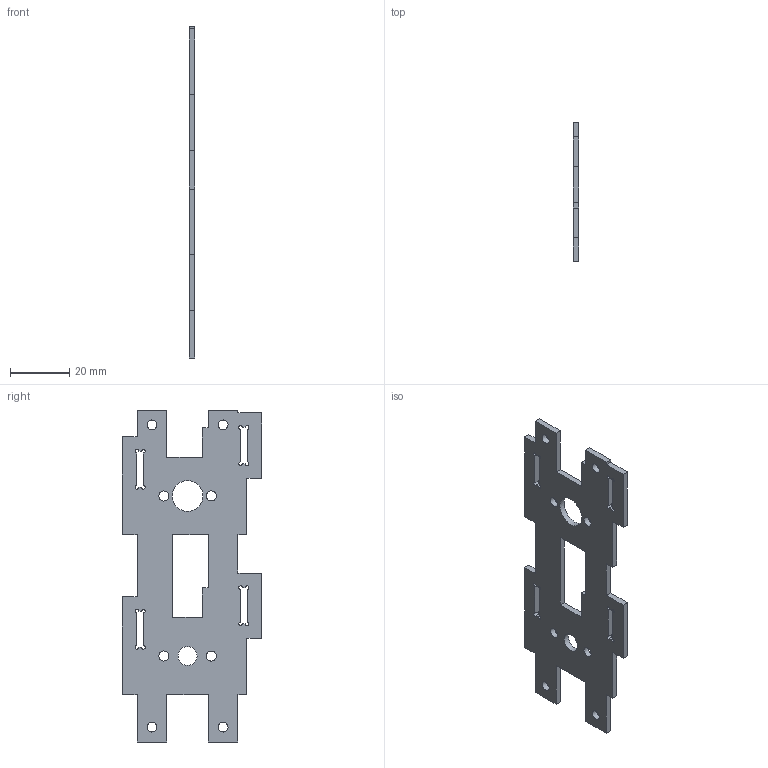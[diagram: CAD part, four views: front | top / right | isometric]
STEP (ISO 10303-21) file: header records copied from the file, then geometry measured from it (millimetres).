
FILE_DESCRIPTION(('Open CASCADE Model'),'2;1');
FILE_NAME('Open CASCADE Shape Model','2026-09-13T11:11:46',('Author'),( 'Open CASCADE'),'Open CASCADE STEP processor 7.9','Open CASCADE 7.9' ,'Unknown');
FILE_SCHEMA(('AUTOMOTIVE_DESIGN { 1 0 10303 214 1 1 1 1 }'));
Length unit declared in the file: millimetre
Products named in the file (1): Open CASCADE STEP translator 7.9 2
Bounding box: 2 x 47 x 112 mm (x, y, z)
Volume: 7102.8 mm3; surface area: 8635.3 mm2
Topology: 1 solids, 1 shells, 84 faces, 246 edges, 164 vertices
Faces by surface type: plane 58, cylinder 26
Full cylindrical faces by diameter (mm): 3.3 x4, 3.4 x4, 6.4 x1, 10.4 x1
Entity records: 6098 total; most frequent: CARTESIAN_POINT 1083, DIRECTION 944, LINE 634, VECTOR 634, ORIENTED_EDGE 492, PCURVE 492, DEFINITIONAL_REPRESENTATION 492, EDGE_CURVE 246
